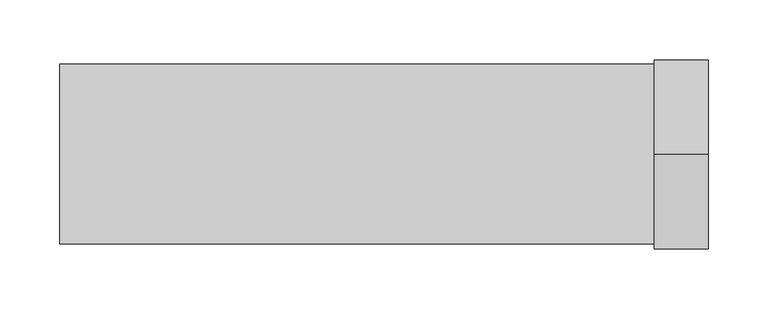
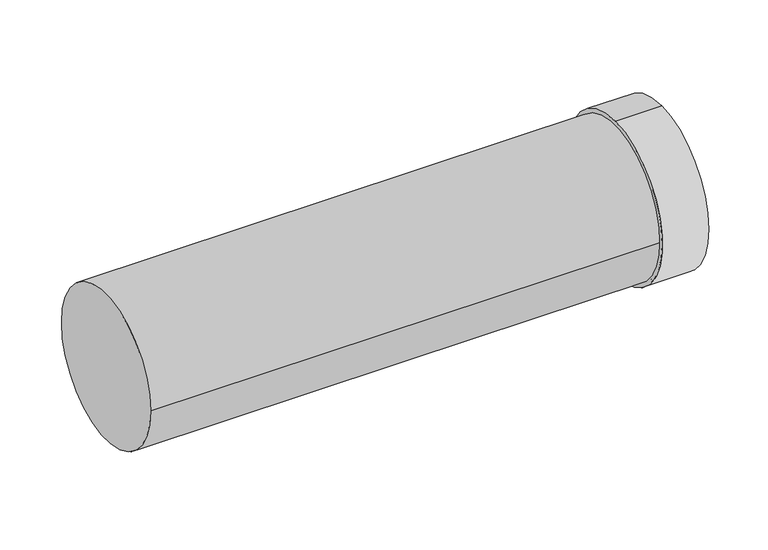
"""IFC4 building model written with IfcOpenShell, lengths in millimetres: duct fitting geometry, RSFen_DUF_UN_Twinline Extension_M&G : ø130-150-200."""

from ifc_helpers import new_model, si_unit, point, frame, origin, origin_2d, place, context, project, spatial, polyline, circle_curve, trimmed, segment, composite_curve, outline, extrude, source, transform, mapped, element, save
from ifc_brep_helpers import plane_surface, cylinder_surface, revolved_surface, advanced_brep


def duct_fitting_bf31f75c(model_context):
    return source(origin(), model_context, "Body", "SolidModel", [
        advanced_brep(
        [(540.0, 0.0, -79.0), (540.0, 0.0, 79.0), (540.0, 0.0, 75.5), (540.0, 0.0, -75.5), (495.0, 0.0, -79.0), (495.0, 0.0, 79.0), (500.0, 0.0, -75.5), (500.0, 0.0, 75.5)],
        [
            (0, 1, circle_curve(frame((540.0, 0.0, 0.0), z_axis=(1.0, 0.0, 0.0), x_axis=(0.0, 0.0, 1.0)), 79.0)),
            (1, 0, circle_curve(frame((540.0, 0.0, 0.0), z_axis=(1.0, 0.0, 0.0), x_axis=(0.0, 0.0, 1.0)), 79.0)),
            (2, 3, circle_curve(frame((540.0, 0.0, 0.0), z_axis=(-1.0, 0.0, 0.0), x_axis=(0.0, 0.0, 1.0)), 75.5)),
            (3, 2, circle_curve(frame((540.0, 0.0, 0.0), z_axis=(-1.0, 0.0, 0.0), x_axis=(0.0, 0.0, 1.0)), 75.5)),
            (4, 5, circle_curve(frame((495.0, 0.0, 0.0), z_axis=(-1.0, 0.0, 0.0), x_axis=(0.0, 0.0, 1.0)), 79.0)),
            (5, 4, circle_curve(frame((495.0, 0.0, 0.0), z_axis=(-1.0, 0.0, 0.0), x_axis=(0.0, 0.0, 1.0)), 79.0)),
            (0, 4),
            (5, 1),
            (6, 7, circle_curve(frame((500.0, 0.0, 0.0), z_axis=(1.0, 0.0, 0.0), x_axis=(0.0, 0.0, 1.0)), 75.5)),
            (7, 6, circle_curve(frame((500.0, 0.0, 0.0), z_axis=(1.0, 0.0, 0.0), x_axis=(0.0, 0.0, 1.0)), 75.5)),
            (6, 3),
            (2, 7),
        ],
        [
            plane_surface(frame((540.0, 0.0, 79.0), z_axis=(1.0, 0.0, 0.0), x_axis=(0.0, -1.0, 0.0))),
            plane_surface(frame((495.0, 0.0, 79.0), z_axis=(-1.0, 0.0, 0.0), x_axis=(0.0, 1.0, 0.0))),
            cylinder_surface(frame((495.0, 0.0, 0.0), z_axis=(1.0, 0.0, 0.0), x_axis=(0.0, 0.0, 1.0)), 79.0),
            plane_surface(frame((500.0, 0.0, 75.5), z_axis=(1.0, 0.0, 0.0), x_axis=(0.0, 1.0, 0.0))),
            revolved_surface(polyline([(540.0, 0.0, 75.5), (500.0, 0.0, 75.5)]), (500.0, 0.0, 0.0), (1.0, 0.0, 0.0)),
        ],
        [
            (0, [[1, 2], [3, 4]]),
            (1, [[5, 6]]),
            (2, [[-1, 7, -6, 8]]),
            (2, [[-2, -8, -5, -7]]),
            (3, [[9, 10]]),
            (4, [[-9, 11, -3, 12]]),
            (4, [[-10, -12, -4, -11]]),
        ],
    ),
        extrude(outline(composite_curve([segment(trimmed(circle_curve(origin_2d(), 75.0), [point((75.0, 0.0))], [point((-75.0, 0.0))], False, "CARTESIAN"), True, "CONTINUOUS"), segment(trimmed(circle_curve(origin_2d(), 75.0), [point((-75.0, 0.0))], [point((75.0, 0.0))], False, "CARTESIAN"), True, "CONTINUOUS")], self_intersect=False)), frame((-2.39e-05, 0.0, 0.0), z_axis=(1.0, 0.0, 0.0), x_axis=(0.0, 1.0, 0.0)), (0.0, 0.0, 1.0), 500.0),
    ])


if __name__ == "__main__":
    model = new_model("IFC4")
    model_context = context("Model", 3, world=origin())
    ifc_project = project(units=[si_unit("LENGTHUNIT", "METRE", prefix="MILLI")], contexts=[model_context])
    site = spatial("IfcSite", under=ifc_project)
    building = spatial("IfcBuilding", under=site)
    placement = place(None, origin())
    duct_fitting_shape = duct_fitting_bf31f75c(model_context)
    element("IfcDuctFitting", 1, ObjectType="RSFen_DUF_UN_Twinline Extension_M&G : ø130-150-200", at=placement, inside=building, context=model_context, shape_type="MappedRepresentation", body=[
        mapped(duct_fitting_shape, transform((0.0, 0.0, 0.0), x_axis=(1.0, 0.0, 0.0), y_axis=(0.0, 1.0, 0.0), z_axis=(0.0, 0.0, 1.0))),
    ])
    save(model, "model.ifc")
